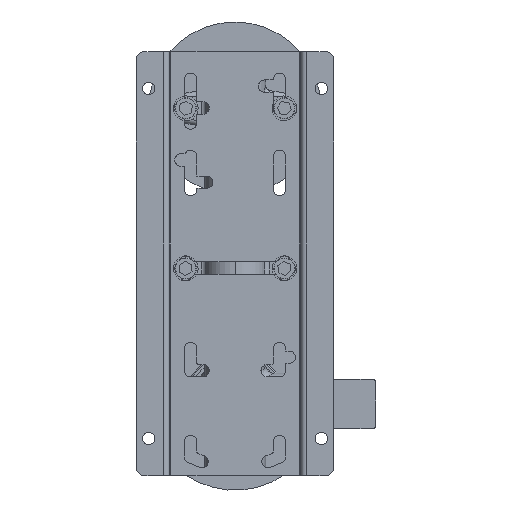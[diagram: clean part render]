
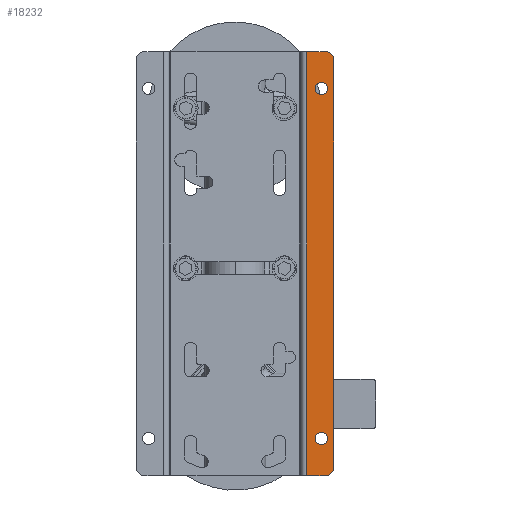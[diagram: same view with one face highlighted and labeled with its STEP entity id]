
A CAD part, left-side view. The second image highlights one B-rep face of the part: STEP entity #18232.
In plain terms, the highlighted planar face has unit normal (-1, 0, 0) as drawn and (0, -1, 0) by its records, which use the part's own axes.
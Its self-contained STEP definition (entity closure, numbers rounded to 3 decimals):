
#1196 = FACE_BOUND ( 'NONE', #21092, .T. ) ;
#1284 = DIRECTION ( 'NONE',  ( 0., 0., -1. ) ) ;
#1470 = VERTEX_POINT ( 'NONE', #29185 ) ;
#1789 = CARTESIAN_POINT ( 'NONE',  ( 15., -11., 63.5 ) ) ;
#2195 = CARTESIAN_POINT ( 'NONE',  ( 15., -11., 68.5 ) ) ;
#2345 = AXIS2_PLACEMENT_3D ( 'NONE', #32224, #9792, #1284 ) ;
#2577 = CARTESIAN_POINT ( 'NONE',  ( 0., -11., 71. ) ) ;
#2641 = AXIS2_PLACEMENT_3D ( 'NONE', #14767, #3650, #14947 ) ;
#2769 = DIRECTION ( 'NONE',  ( 0., 0., 1. ) ) ;
#3170 = ORIENTED_EDGE ( 'NONE', *, *, #10736, .F. ) ;
#3210 = VECTOR ( 'NONE', #35072, 1000. ) ;
#3292 = CARTESIAN_POINT ( 'NONE',  ( 3., -11., 68. ) ) ;
#3650 = DIRECTION ( 'NONE',  ( 0., -1., 0. ) ) ;
#3658 = DIRECTION ( 'NONE',  ( 0., -1., 0. ) ) ;
#3671 = EDGE_LOOP ( 'NONE', ( #31604, #3170 ) ) ;
#4125 = LINE ( 'NONE', #15605, #20439 ) ;
#5077 = CIRCLE ( 'NONE', #23410, 2.5 ) ;
#5110 = DIRECTION ( 'NONE',  ( 0., 0., -1. ) ) ;
#5529 = DIRECTION ( 'NONE',  ( 0., 0., -1. ) ) ;
#5680 = VERTEX_POINT ( 'NONE', #28683 ) ;
#6574 = LINE ( 'NONE', #20673, #3210 ) ;
#8039 = VERTEX_POINT ( 'NONE', #1789 ) ;
#8134 = DIRECTION ( 'NONE',  ( 1., 0., 0. ) ) ;
#8324 = LINE ( 'NONE', #2577, #27836 ) ;
#8481 = EDGE_CURVE ( 'NONE', #1470, #15390, #17055, .T. ) ;
#8562 = AXIS2_PLACEMENT_3D ( 'NONE', #31279, #28978, #5529 ) ;
#8662 = PLANE ( 'NONE',  #8562 ) ;
#9024 = VERTEX_POINT ( 'NONE', #14773 ) ;
#9074 = ORIENTED_EDGE ( 'NONE', *, *, #10443, .T. ) ;
#9713 = CIRCLE ( 'NONE', #10906, 3. ) ;
#9756 = ORIENTED_EDGE ( 'NONE', *, *, #15718, .F. ) ;
#9792 = DIRECTION ( 'NONE',  ( 0., -1., 0. ) ) ;
#9997 = CIRCLE ( 'NONE', #21868, 2.5 ) ;
#10443 = EDGE_CURVE ( 'NONE', #1470, #27545, #9713, .T. ) ;
#10736 = EDGE_CURVE ( 'NONE', #8039, #14937, #5077, .T. ) ;
#10906 = AXIS2_PLACEMENT_3D ( 'NONE', #3292, #3658, #34030 ) ;
#12177 = VECTOR ( 'NONE', #8134, 1000. ) ;
#12196 = EDGE_LOOP ( 'NONE', ( #14827, #9074, #14695, #19043, #9756, #34673 ) ) ;
#12818 = DIRECTION ( 'NONE',  ( 1., 0., 0. ) ) ;
#12907 = CIRCLE ( 'NONE', #16453, 2.5 ) ;
#13495 = CARTESIAN_POINT ( 'NONE',  ( 157., -11., 66. ) ) ;
#13653 = EDGE_CURVE ( 'NONE', #19075, #24787, #9997, .T. ) ;
#14338 = ORIENTED_EDGE ( 'NONE', *, *, #20340, .F. ) ;
#14695 = ORIENTED_EDGE ( 'NONE', *, *, #34726, .F. ) ;
#14767 = CARTESIAN_POINT ( 'NONE',  ( 15., -11., 66. ) ) ;
#14773 = CARTESIAN_POINT ( 'NONE',  ( 172., -11., 60. ) ) ;
#14796 = EDGE_CURVE ( 'NONE', #19164, #15390, #36035, .T. ) ;
#14827 = ORIENTED_EDGE ( 'NONE', *, *, #8481, .F. ) ;
#14937 = VERTEX_POINT ( 'NONE', #2195 ) ;
#14947 = DIRECTION ( 'NONE',  ( 0., 0., -1. ) ) ;
#15390 = VERTEX_POINT ( 'NONE', #30313 ) ;
#15605 = CARTESIAN_POINT ( 'NONE',  ( 0., -11., 60. ) ) ;
#15718 = EDGE_CURVE ( 'NONE', #19164, #9024, #6574, .T. ) ;
#16453 = AXIS2_PLACEMENT_3D ( 'NONE', #35455, #21591, #32691 ) ;
#16719 = CARTESIAN_POINT ( 'NONE',  ( 157., -11., 68.5 ) ) ;
#17055 = LINE ( 'NONE', #28333, #12177 ) ;
#18232 = ADVANCED_FACE ( 'NONE', ( #1196, #34045, #30752 ), #8662, .T. ) ;
#19043 = ORIENTED_EDGE ( 'NONE', *, *, #30078, .T. ) ;
#19075 = VERTEX_POINT ( 'NONE', #16719 ) ;
#19164 = VERTEX_POINT ( 'NONE', #26303 ) ;
#20340 = EDGE_CURVE ( 'NONE', #24787, #19075, #12907, .T. ) ;
#20439 = VECTOR ( 'NONE', #12818, 1000. ) ;
#20673 = CARTESIAN_POINT ( 'NONE',  ( 172., -11., 59. ) ) ;
#21092 = EDGE_LOOP ( 'NONE', ( #31863, #14338 ) ) ;
#21439 = CARTESIAN_POINT ( 'NONE',  ( 15., -11., 66. ) ) ;
#21591 = DIRECTION ( 'NONE',  ( 0., -1., 0. ) ) ;
#21868 = AXIS2_PLACEMENT_3D ( 'NONE', #13495, #22377, #27746 ) ;
#22377 = DIRECTION ( 'NONE',  ( 0., -1., 0. ) ) ;
#23410 = AXIS2_PLACEMENT_3D ( 'NONE', #21439, #29940, #5110 ) ;
#24787 = VERTEX_POINT ( 'NONE', #33839 ) ;
#25978 = CARTESIAN_POINT ( 'NONE',  ( 0., -11., 68. ) ) ;
#26303 = CARTESIAN_POINT ( 'NONE',  ( 172., -11., 68. ) ) ;
#27545 = VERTEX_POINT ( 'NONE', #25978 ) ;
#27746 = DIRECTION ( 'NONE',  ( 0., 0., -1. ) ) ;
#27836 = VECTOR ( 'NONE', #2769, 1000. ) ;
#27871 = EDGE_CURVE ( 'NONE', #14937, #8039, #35162, .T. ) ;
#28333 = CARTESIAN_POINT ( 'NONE',  ( 172., -11., 71. ) ) ;
#28683 = CARTESIAN_POINT ( 'NONE',  ( 0., -11., 60. ) ) ;
#28978 = DIRECTION ( 'NONE',  ( 0., -1., 0. ) ) ;
#29185 = CARTESIAN_POINT ( 'NONE',  ( 3., -11., 71. ) ) ;
#29940 = DIRECTION ( 'NONE',  ( 0., -1., 0. ) ) ;
#30078 = EDGE_CURVE ( 'NONE', #5680, #9024, #4125, .T. ) ;
#30313 = CARTESIAN_POINT ( 'NONE',  ( 169., -11., 71. ) ) ;
#30752 = FACE_OUTER_BOUND ( 'NONE', #12196, .T. ) ;
#31279 = CARTESIAN_POINT ( 'NONE',  ( 0., -11., 0. ) ) ;
#31604 = ORIENTED_EDGE ( 'NONE', *, *, #27871, .F. ) ;
#31863 = ORIENTED_EDGE ( 'NONE', *, *, #13653, .F. ) ;
#32224 = CARTESIAN_POINT ( 'NONE',  ( 169., -11., 68. ) ) ;
#32691 = DIRECTION ( 'NONE',  ( 0., 0., -1. ) ) ;
#33839 = CARTESIAN_POINT ( 'NONE',  ( 157., -11., 63.5 ) ) ;
#34030 = DIRECTION ( 'NONE',  ( 0., 0., -1. ) ) ;
#34045 = FACE_BOUND ( 'NONE', #3671, .T. ) ;
#34673 = ORIENTED_EDGE ( 'NONE', *, *, #14796, .T. ) ;
#34726 = EDGE_CURVE ( 'NONE', #5680, #27545, #8324, .T. ) ;
#35072 = DIRECTION ( 'NONE',  ( 0., 0., -1. ) ) ;
#35162 = CIRCLE ( 'NONE', #2641, 2.5 ) ;
#35455 = CARTESIAN_POINT ( 'NONE',  ( 157., -11., 66. ) ) ;
#36035 = CIRCLE ( 'NONE', #2345, 3. ) ;
